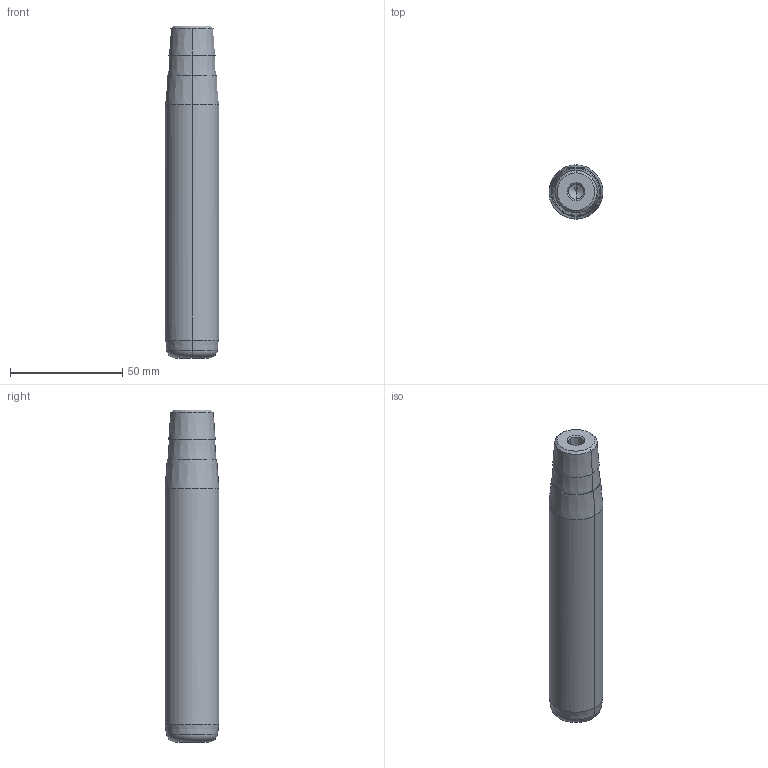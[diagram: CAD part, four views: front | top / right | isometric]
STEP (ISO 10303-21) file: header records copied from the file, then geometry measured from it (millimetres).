
FILE_DESCRIPTION(('CATIA V5 STEP Exchange'),'2;1');
FILE_NAME('C:\Users\Utente\Desktop\IO LAVORO\3D X SITO CF\X SITO\722\722-24x125x148.stp','2021-01-09T08:37:35+00:00',('none'),('none'),'CATIA Version 5 Release 20 GA (IN-10)','CATIA V5 STEP AP203','none');
FILE_SCHEMA(('CONFIG_CONTROL_DESIGN'));
Length unit declared in the file: millimetre
Products named in the file (1): 722-24x125x148
Bounding box: 24 x 24 x 148 mm (x, y, z)
Volume: 61189.5 mm3; surface area: 12483.4 mm2
Topology: 1 solids, 1 shells, 32 faces, 98 edges, 66 vertices
Faces by surface type: cone 22, cylinder 6, plane 2, torus 2
Entity records: 1166 total; most frequent: CARTESIAN_POINT 279, ORIENTED_EDGE 188, DIRECTION 148, EDGE_CURVE 94, AXIS2_PLACEMENT_3D 89, VERTEX_POINT 66, CIRCLE 56, EDGE_LOOP 34
